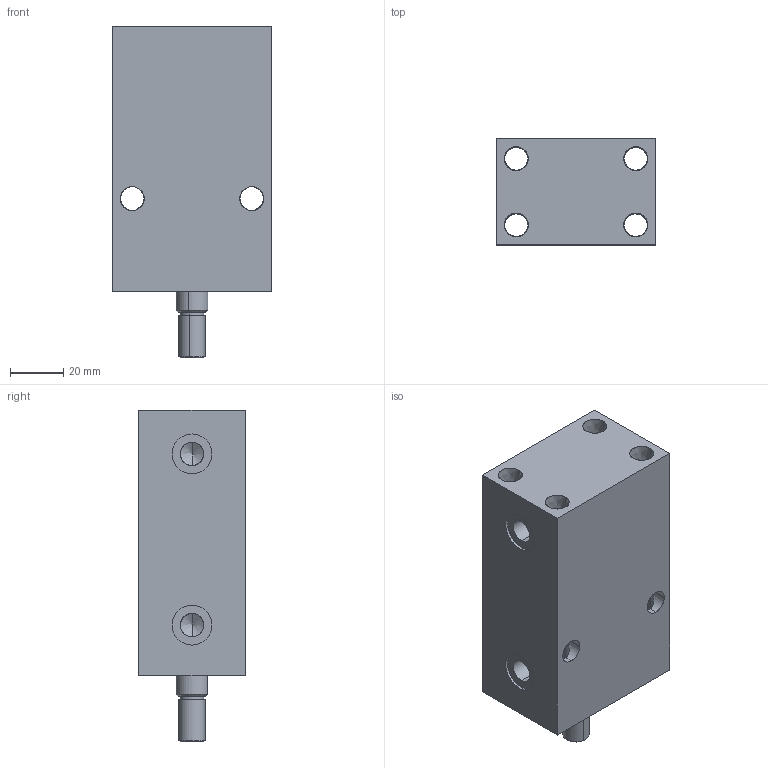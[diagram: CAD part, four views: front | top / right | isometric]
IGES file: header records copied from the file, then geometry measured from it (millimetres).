
Start section: SolidWorks IGES file using analytic representation for surfaces
Global section: file name: D:\karuppas\Clasp\3D model\Block cylinder B01C-Male thread - Copy\B01C-050M\Block cylinder B01C-050M.IGS; native system: SolidWorks 2017; preprocessor: SolidWorks 2017; author: pc; date: 220709.232523; units: millimetre
Bounding box: 60 x 40 x 125 mm (x, y, z)
Surface area: 42414.9 mm2 (no closed solid volume)
Topology: 0 solids, 0 shells, 354 faces, 5532 edges, 5528 vertices
Faces by surface type: bspline 300, revolution 54
